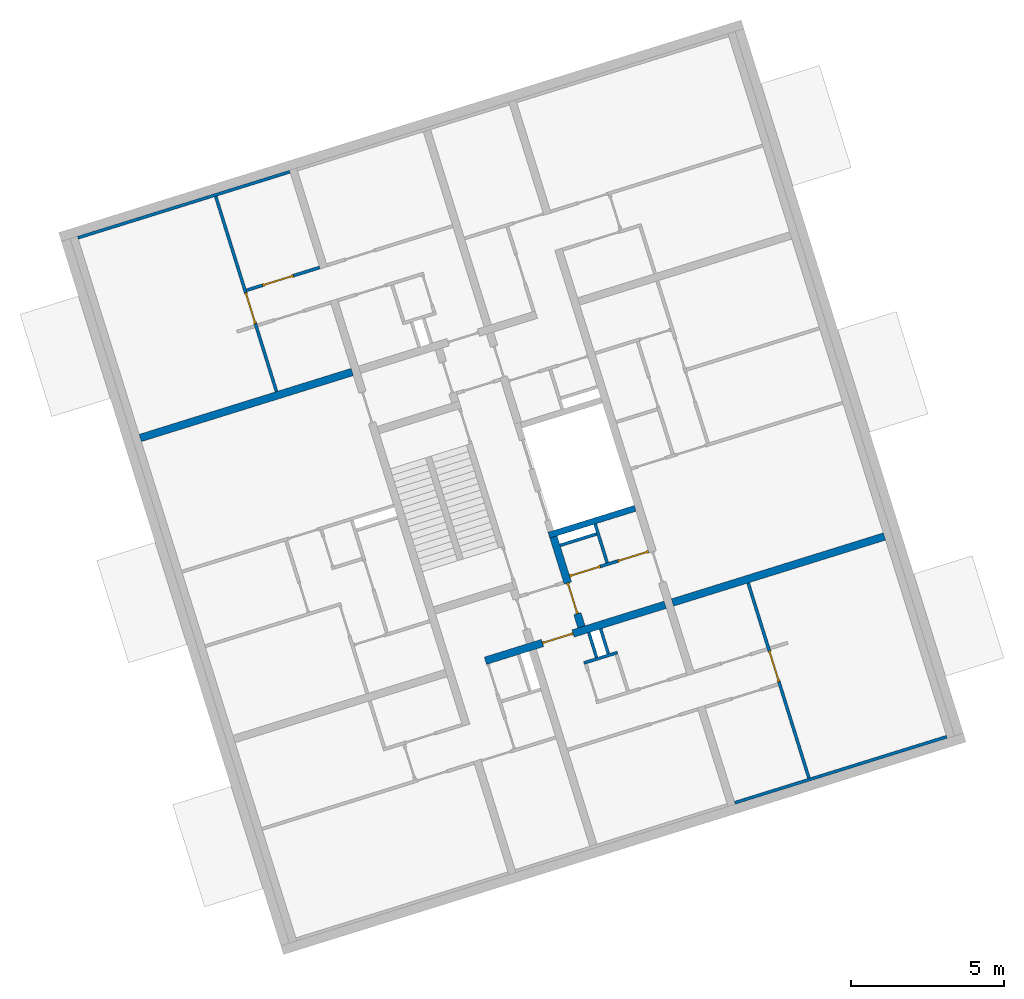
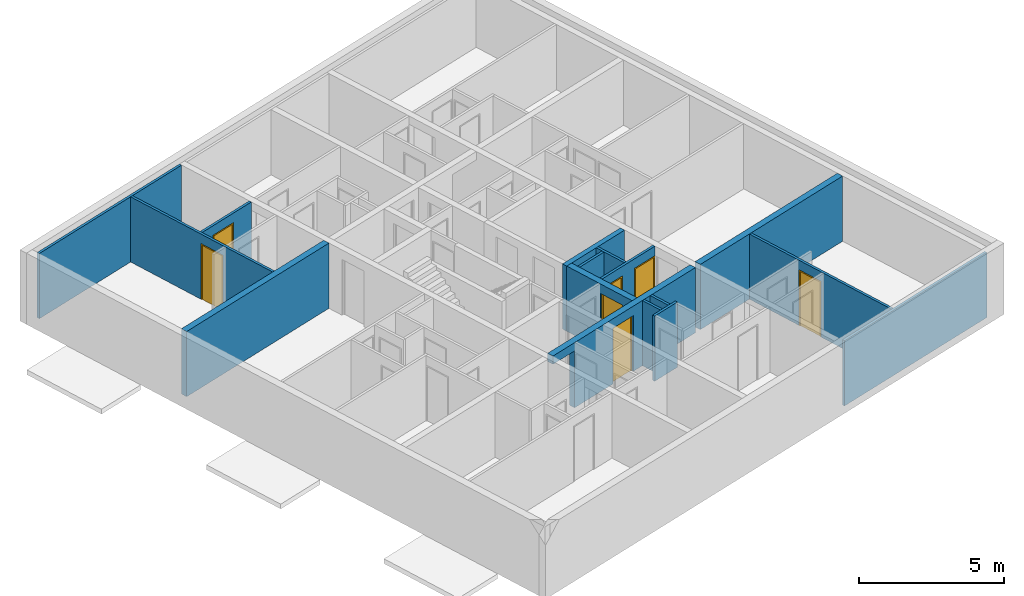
# One storey, part 4 of 9: 16 walls, 7 doors, 8 openings.
"""IFC4 building model written with IfcOpenShell, lengths in metres."""

from ifc_helpers import new_model, entity, si_unit, converted_unit, direction, frame, origin, place, context, subcontext, project, spatial, indexed_curve, outline, extrude, polygons, source, transform, mapped, material, constituent, constituent_set, type_object, type_shapes, element, fill, save


model = new_model("IFC4")

# Units and contexts
model_context = context("Model", 3, precision=1e-05, world=origin(), true_north=direction((6.12323399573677e-17, 1.0)))
body_context = subcontext(model_context, "Body", "Model", "MODEL_VIEW")
ifc_project = project(units=[si_unit("LENGTHUNIT", "METRE"), si_unit("AREAUNIT", "SQUARE_METRE"), converted_unit("PLANEANGLEUNIT", "DEGREE", entity("IfcPlaneAngleMeasure", 0.0174532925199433), si_unit("PLANEANGLEUNIT", "RADIAN"), dimensions=[0, 0, 0, 0, 0, 0, 0]), si_unit("VOLUMEUNIT", "CUBIC_METRE")], contexts=[model_context])

# Site, building, storey
site_placement = place(None, frame((13.1347999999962, 11.9886000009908, 0.0), z_axis=(0.0, 0.0, 1.0), x_axis=(0.954770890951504, 0.297342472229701, 0.0)))
site = spatial("IfcSite", under=ifc_project, at=site_placement, Name="Schiehaven", CompositionType="ELEMENT")
building_placement = place(site_placement, origin())
building = spatial("IfcBuilding", under=site, at=building_placement, Name="VORM huis", CompositionType="ELEMENT")
storey_placement = place(building_placement, frame((0.0, 0.0, 15.9)))
storey = spatial("IfcBuildingStorey", under=building, at=storey_placement, Name="05 vijfde verdieping", CompositionType="ELEMENT", Elevation=15.9)

# Wall, openings, door
ifc_material_1 = material(Name="beton_gewapend_ihw", Category="Miscellaneous")
wall_type_1 = type_object("IfcWallType", Name="Basic Wall:28_WA_skelet_wand 250mm_gen", PredefinedType="STANDARD")
wall_1_placement = place(storey_placement, frame((65.125, 11.8999999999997, 0.0)))
wall_1 = element("IfcWall", 1, at=wall_1_placement, inside=storey, type_object=wall_type_1, material=ifc_material_1, Name="Constructieve wand", ObjectType="Wand", PredefinedType="NOTDEFINED", context=body_context, shape_type="Tessellation", body=[
    polygons([(4.09999999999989, -0.125, 2.34999999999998), (4.09999999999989, -0.125, -2.16573425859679e-15), (7.24999999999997, -0.125, -2.16573425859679e-15), (7.24999999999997, -0.125, 2.75), (-3.43598028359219e-15, -0.125, 2.75), (-3.43598028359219e-15, -0.125, 2.4), (1.10000000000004, -0.125, 2.4), (1.10000000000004, -0.125, -2.16573425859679e-15), (3.04999999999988, -0.125, -2.16573425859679e-15), (3.04999999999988, -0.125, 2.34999999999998), (7.24999999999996, 0.125, -2.16573425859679e-15), (4.09999999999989, 0.125, -2.16573425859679e-15), (4.09999999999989, 0.125, 2.34999999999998), (3.04999999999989, 0.125, 2.34999999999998), (3.04999999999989, 0.125, -2.16573425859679e-15), (1.10000000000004, 0.125, -2.16573425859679e-15), (1.10000000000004, 0.125, 2.4), (-9.33960364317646e-16, 0.125, 2.4), (-9.33960364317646e-16, 0.125, 2.75), (7.24999999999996, 0.125, 2.75)], [[[1, 2, 3, 4, 5, 6, 7, 8, 9, 10]], [[11, 12, 13, 14, 15, 16, 17, 18, 19, 20]], [[9, 8, 16, 15]], [[5, 4, 20, 19]], [[5, 19, 18, 6]], [[15, 14, 10, 9]], [[13, 12, 2, 1]], [[14, 13, 1, 10]], [[17, 7, 6, 18]], [[7, 17, 16, 8]], [[4, 3, 11, 20]], [[3, 2, 12, 11]]], closed=True),
])
opening_1_placement = place(wall_1_placement, origin())
element("IfcOpeningElement", 2, at=opening_1_placement, cuts=wall_1, Name="Constructieve wand", PredefinedType="OPENING", context=body_context, shape_type="SweptSolid", body=[
    extrude(outline(indexed_curve([(-1.2, -0.550000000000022), (1.2, -0.550000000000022), (1.2, 0.550000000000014), (-1.2, 0.550000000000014), (-1.2, -0.550000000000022)], self_intersect=False)), frame((0.55000000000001, -0.125, 1.2), z_axis=(0.0, 1.0, 0.0), x_axis=(0.0, 0.0, -1.0)), (0.0, 0.0, 1.0), 0.249999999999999),
])
opening_2_placement = place(wall_1_placement, frame((3.04999999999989, -0.124999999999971, 0.0)))
opening_2 = element("IfcOpeningElement", 3, at=opening_2_placement, cuts=wall_1, Name="Woningtoegangsdeur", PredefinedType="OPENING", context=body_context, shape_type="SweptSolid", body=[
    extrude(outline(indexed_curve([(2.34999999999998, 1.8457481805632e-29), (2.34999999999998, 1.05), (0.0, 1.05), (0.0, 1.8457481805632e-29), (2.34999999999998, 1.8457481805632e-29)], self_intersect=False)), frame((0.0, 0.0, 0.0), z_axis=(0.0, 1.0, 0.0), x_axis=(0.0, 0.0, 1.0)), (0.0, 0.0, 1.0), 0.25),
])
ifc_material_2 = material(Name="PD_a_binnenwandopeningen", Category="Miscellaneous")
ifc_constituent_1 = constituent(ifc_material_2, Name="PD_a_binnenwandopeningen", Category="Miscellaneous")
ifc_material_3 = material(Name="metaal_aluminium_ntb", Category="Miscellaneous")
ifc_constituent_2 = constituent(ifc_material_3, Name="metaal_aluminium_ntb", Category="Miscellaneous")
ifc_constituent_set_1 = constituent_set(constituents=[ifc_constituent_1, ifc_constituent_2])
ifc_constituent_3 = constituent(ifc_material_2, Name="PD_a_binnenwandopeningen", Category="Miscellaneous")
ifc_constituent_4 = constituent(ifc_material_3, Name="Panel", Category="Miscellaneous")
ifc_constituent_set_2 = constituent_set(constituents=[ifc_constituent_3, ifc_constituent_4])
door_type_1 = type_object("IfcDoorType", Name="32_DO_binnendeur enkel:woningtoegangsdeur", OperationType="REVOLVING", PredefinedType="DOOR", material=ifc_constituent_set_2)
shared_shape_1 = source(origin(), body_context, "Body", "SweptSolid", [
    extrude(outline(indexed_curve([(0.475, -1.16249999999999), (0.525000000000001, -1.16249999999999), (0.525000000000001, 1.18749999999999), (-0.525000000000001, 1.18749999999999), (-0.525000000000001, -1.16249999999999), (-0.475, -1.16249999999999), (-0.475, 1.13749999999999), (0.475, 1.13749999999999), (0.475, -1.16249999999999)], self_intersect=False)), frame((0.525000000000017, 0.174999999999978, 1.16249999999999), z_axis=(0.0, -1.0, 0.0), x_axis=(1.0, 0.0, 0.0)), (0.0, 0.0, 1.0), 0.1),
    extrude(outline(indexed_curve([(-0.475, -0.025), (0.475, -0.025), (0.475, 0.025), (-0.475, 0.025), (-0.475, -0.025)], self_intersect=False)), frame((0.525000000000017, 0.12499999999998, 0.0)), (0.0, 0.0, 1.0), 2.29999999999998),
])
type_shapes(door_type_1, [shared_shape_1])
door_1_placement = place(opening_2_placement, origin())
door_1 = element("IfcDoor", 4, at=door_1_placement, inside=storey, type_object=door_type_1, material=ifc_constituent_set_1, Name="Woningtoegangsdeur", ObjectType="Deur", OperationType="REVOLVING", OverallHeight=2.34999999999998, OverallWidth=1.05, PredefinedType="DOOR", context=body_context, shape_type="MappedRepresentation", body=[
    mapped(shared_shape_1, transform((0.0, 0.0, 0.0), scale=1.0)),
])
fill(opening_2, door_1)

# Walls
ifc_material_4 = material(Name="ntb_ntb_ntb", Category="Miscellaneous")
wall_type_2 = type_object("IfcWallType", Name="Basic Wall:21_WA_gevel_binnenspouwwand 100mm_gen", PredefinedType="STANDARD")
wall_2_placement = place(storey_placement, frame((79.8750000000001, 5.04999999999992, 0.0), z_axis=(0.0, 0.0, 1.0), x_axis=(-1.0, 0.0, 0.0)))
element("IfcWall", 5, at=wall_2_placement, inside=storey, type_object=wall_type_2, material=ifc_material_4, Name="Binnenspouwblad", ObjectType="Wand", PredefinedType="NOTDEFINED", context=body_context, shape_type="SweptSolid", body=[
    extrude(outline(indexed_curve([(7.24999999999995, 0.0499999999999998), (5.48749790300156e-18, 0.0499999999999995), (-5.48749790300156e-18, -0.0499999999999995), (7.24999999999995, -0.0499999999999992), (7.24999999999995, 0.0499999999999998)], self_intersect=False)), origin(), (0.0, 0.0, 1.0), 2.75),
])
wall_3_placement = place(storey_placement, frame((64.8750000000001, 29.0499999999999, 0.0), z_axis=(0.0, 0.0, 1.0), x_axis=(-1.0, 0.0, 0.0)))
element("IfcWall", 6, at=wall_3_placement, inside=storey, type_object=wall_type_2, material=ifc_material_4, Name="Binnenspouwblad", ObjectType="Wand", PredefinedType="NOTDEFINED", context=body_context, shape_type="SweptSolid", body=[
    extrude(outline(indexed_curve([(7.24999999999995, 0.0499999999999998), (-1.70916305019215e-17, 0.0500000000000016), (1.70916305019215e-17, -0.0500000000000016), (7.24999999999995, -0.0500000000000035), (7.24999999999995, 0.0499999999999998)], self_intersect=False)), origin(), (0.0, 0.0, 1.0), 2.75),
])
ifc_material_5 = material(Name="beton_gewapend_prefab-element", Category="Miscellaneous")
wall_type_3 = type_object("IfcWallType", Name="Basic Wall:28_WA_skelet_wand 200mm_gen", PredefinedType="STANDARD")
wall_4_placement = place(storey_placement, frame((72.3750000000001, 15.1999999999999, 0.0), z_axis=(0.0, 0.0, 1.0), x_axis=(-1.0, 0.0, 0.0)))
element("IfcWall", 7, at=wall_4_placement, inside=storey, type_object=wall_type_3, material=ifc_material_5, Name="Constructieve wand", ObjectType="Wand", PredefinedType="NOTDEFINED", context=body_context, shape_type="SweptSolid", body=[
    extrude(outline(indexed_curve([(2.9500000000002, 0.100000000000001), (-7.31549408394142e-18, 0.100000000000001), (7.31549408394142e-18, -0.100000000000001), (2.9500000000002, -0.100000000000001), (2.9500000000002, 0.100000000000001)], self_intersect=False)), origin(), (0.0, 0.0, 1.0), 2.75),
])
wall_type_4 = type_object("IfcWallType", Name="Basic Wall:22_WA_afbouw_binnenwand 250mm_gen", PredefinedType="STANDARD")
wall_5_placement = place(storey_placement, frame((64.8749999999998, 22.1999999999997, 0.0), z_axis=(0.0, 0.0, 1.0), x_axis=(-1.0, 0.0, 0.0)))
element("IfcWall", 8, at=wall_5_placement, inside=storey, type_object=wall_type_4, material=ifc_material_4, Name="Binnenwand", ObjectType="Wand", PredefinedType="NOTDEFINED", context=body_context, shape_type="SweptSolid", body=[
    extrude(outline(indexed_curve([(7.24999999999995, 0.125000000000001), (1.36042581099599e-15, 0.125000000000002), (-1.36042581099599e-15, -0.125000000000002), (7.24999999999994, -0.125000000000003), (7.24999999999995, 0.125000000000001)], self_intersect=False)), origin(), (0.0, 0.0, 1.0), 2.75),
])
wall_6_placement = place(storey_placement, frame((72.6249999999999, 11.8999999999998, 0.0)))
element("IfcWall", 9, at=wall_6_placement, inside=storey, type_object=wall_type_4, material=ifc_material_4, Name="Binnenwand", ObjectType="Wand", PredefinedType="NOTDEFINED", context=body_context, shape_type="SweptSolid", body=[
    extrude(outline(indexed_curve([(7.24999999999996, 0.124999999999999), (1.36514404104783e-15, 0.125), (-1.36514404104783e-15, -0.125), (7.24999999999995, -0.125000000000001), (7.24999999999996, 0.124999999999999)], self_intersect=False)), origin(), (0.0, 0.0, 1.0), 2.75),
])

# Wall, opening, door
wall_7_placement = place(storey_placement, frame((69.5499999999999, 15.0999999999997, 0.0), z_axis=(0.0, 0.0, 1.0), x_axis=(0.0, -1.0, 0.0)))
wall_7 = element("IfcWall", 10, at=wall_7_placement, inside=storey, type_object=wall_type_4, material=ifc_material_4, Name="Binnenwand", ObjectType="Wand", PredefinedType="NOTDEFINED", context=body_context, shape_type="Tessellation", body=[
    polygons([(2.62500000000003, -0.125000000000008, 2.34999999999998), (2.62500000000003, -0.125000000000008, -2.16573425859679e-15), (3.07499999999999, -0.125000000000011, -2.16573425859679e-15), (3.07499999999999, -0.125000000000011, 2.75), (1.575, -0.125000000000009, 2.75), (1.475, -0.125000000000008, 2.75), (0.0, -0.125000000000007, 2.75), (0.0, -0.125000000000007, -2.16573425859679e-15), (1.475, -0.125000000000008, -2.16573425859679e-15), (1.57500000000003, -0.125000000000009, -2.16573425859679e-15), (1.57500000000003, -0.125000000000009, 2.34999999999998), (3.07499999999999, 0.124999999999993, -2.16573425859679e-15), (2.62500000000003, 0.124999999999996, -2.16573425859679e-15), (2.62500000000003, 0.124999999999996, 2.34999999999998), (1.57500000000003, 0.124999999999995, 2.34999999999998), (1.57500000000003, 0.124999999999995, -2.16573425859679e-15), (-2.16573425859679e-15, 0.125000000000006, -2.16573425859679e-15), (-2.16573425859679e-15, 0.125000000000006, 2.75), (3.07499999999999, 0.124999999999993, 2.75)], [[[1, 2, 3, 4, 5, 6, 7, 8, 9, 10, 11]], [[12, 13, 14, 15, 16, 17, 18, 19]], [[10, 9, 8, 17, 16]], [[4, 3, 12, 19]], [[7, 6, 5, 4, 19, 18]], [[8, 7, 18, 17]], [[16, 15, 11, 10]], [[14, 13, 2, 1]], [[15, 14, 1, 11]], [[3, 2, 13, 12]]], closed=True),
])
opening_3_placement = place(wall_7_placement, frame((2.62500000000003, 0.125000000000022, 0.0)))
opening_3 = element("IfcOpeningElement", 11, at=opening_3_placement, cuts=wall_7, Name="Woningtoegangsdeur", PredefinedType="OPENING", context=body_context, shape_type="SweptSolid", body=[
    extrude(outline(indexed_curve([(2.34999999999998, 1.05), (0.0, 1.05), (0.0, 1.08286712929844e-15), (2.34999999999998, 1.08286712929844e-15), (2.34999999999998, 1.05)], self_intersect=False)), frame((0.0, 0.0, 0.0), z_axis=(0.0, -1.0, 0.0), x_axis=(0.0, 0.0, 1.0)), (0.0, 0.0, 1.0), 0.25),
])
ifc_constituent_5 = constituent(ifc_material_2, Name="PD_a_binnenwandopeningen", Category="Miscellaneous")
ifc_constituent_6 = constituent(ifc_material_3, Name="metaal_aluminium_ntb", Category="Miscellaneous")
ifc_constituent_set_3 = constituent_set(constituents=[ifc_constituent_5, ifc_constituent_6])
ifc_constituent_7 = constituent(ifc_material_2, Name="PD_a_binnenwandopeningen", Category="Miscellaneous")
ifc_constituent_8 = constituent(ifc_material_3, Name="Panel", Category="Miscellaneous")
ifc_constituent_set_4 = constituent_set(constituents=[ifc_constituent_7, ifc_constituent_8])
door_type_2 = type_object("IfcDoorType", Name="32_DO_binnendeur enkel:woningtoegangsdeur", OperationType="REVOLVING", PredefinedType="DOOR", material=ifc_constituent_set_4)
shared_shape_2 = source(origin(), body_context, "Body", "SweptSolid", [
    extrude(outline(indexed_curve([(-1.16249999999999, -0.525000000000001), (1.18749999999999, -0.525), (1.18749999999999, 0.525000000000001), (-1.16249999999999, 0.525000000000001), (-1.16249999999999, 0.475), (1.13749999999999, 0.475), (1.13749999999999, -0.475), (-1.16249999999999, -0.475), (-1.16249999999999, -0.525000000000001)], self_intersect=False)), frame((0.525000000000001, 0.0749999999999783, 1.16249999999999), z_axis=(0.0, 1.0, 0.0), x_axis=(0.0, 0.0, 1.0)), (0.0, 0.0, 1.0), 0.1),
    extrude(outline(indexed_curve([(-0.025, -0.475), (0.025, -0.475), (0.025, 0.475), (-0.025, 0.475), (-0.025, -0.475)], self_intersect=False)), frame((0.525000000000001, 0.12499999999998, 0.0), z_axis=(0.0, 0.0, 1.0), x_axis=(0.0, 1.0, 0.0)), (0.0, 0.0, 1.0), 2.29999999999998),
])
type_shapes(door_type_2, [shared_shape_2])
door_2_placement = place(opening_3_placement, frame((0.0, 0.0, 0.0), z_axis=(0.0, 0.0, 1.0), x_axis=(-1.0, 0.0, 0.0)))
door_2 = element("IfcDoor", 12, at=door_2_placement, inside=storey, type_object=door_type_2, material=ifc_constituent_set_3, Name="Woningtoegangsdeur", ObjectType="Deur", OperationType="REVOLVING", OverallHeight=2.34999999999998, OverallWidth=1.05, PredefinedType="DOOR", context=body_context, shape_type="MappedRepresentation", body=[
    mapped(shared_shape_2, transform((0.0, 0.0, 0.0), scale=1.0)),
])
fill(opening_3, door_2)

# Walls
wall_type_5 = type_object("IfcWallType", Name="Basic Wall:22_WA_afbouw_binnenwand 100mm_gen", PredefinedType="STANDARD")
wall_8_placement = place(storey_placement, frame((70.4249999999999, 10.8749999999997, 0.0), z_axis=(0.0, 0.0, 1.0), x_axis=(-1.0, 0.0, 0.0)))
element("IfcWall", 13, at=wall_8_placement, inside=storey, type_object=wall_type_5, material=ifc_material_4, Name="Binnenwand", ObjectType="Wand", PredefinedType="NOTDEFINED", context=body_context, shape_type="SweptSolid", body=[
    extrude(outline(indexed_curve([(1.15, 0.049999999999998), (6.26749477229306e-16, 0.0499999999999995), (-6.26749477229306e-16, -0.0499999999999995), (1.15, -0.0500000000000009), (1.15, 0.049999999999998)], self_intersect=False)), origin(), (0.0, 0.0, 1.0), 2.75),
])
wall_9_placement = place(storey_placement, frame((69.7249999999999, 11.7749999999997, 0.0), z_axis=(0.0, 0.0, 1.0), x_axis=(0.0, -1.0, 0.0)))
element("IfcWall", 14, at=wall_9_placement, inside=storey, type_object=wall_type_5, material=ifc_material_4, Name="Binnenwand", ObjectType="Wand", PredefinedType="NOTDEFINED", context=body_context, shape_type="SweptSolid", body=[
    extrude(outline(indexed_curve([(0.850000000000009, 0.0499999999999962), (5.75634952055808e-16, 0.0499999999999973), (-5.75634952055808e-16, -0.0499999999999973), (0.850000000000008, -0.0499999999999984), (0.850000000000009, 0.0499999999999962)], self_intersect=False)), origin(), (0.0, 0.0, 1.0), 2.75),
])

# Wall, opening, door
wall_10_placement = place(storey_placement, frame((75.175, 11.7749999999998, 0.0), z_axis=(0.0, 0.0, 1.0), x_axis=(0.0, -1.0, 0.0)))
wall_10 = element("IfcWall", 15, at=wall_10_placement, inside=storey, type_object=wall_type_5, material=ifc_material_4, Name="Binnenwand", ObjectType="Wand", PredefinedType="NOTDEFINED", context=body_context, shape_type="Tessellation", body=[
    polygons([(0.0, -0.050000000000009, 0.0), (2.19999999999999, -0.0500000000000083, 0.0), (2.29999999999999, -0.0500000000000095, 0.0), (2.325, -0.0500000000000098, 0.0), (2.325, -0.0500000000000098, 2.34999999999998), (3.375, -0.0500000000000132, 2.34999999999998), (3.375, -0.0500000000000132, 0.0), (3.39999999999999, -0.0500000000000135, 0.0), (3.49999999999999, -0.050000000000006, 0.0), (6.67499999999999, -0.0500000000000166, 0.0), (6.67499999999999, -0.0500000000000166, 2.75), (3.49999999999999, -0.050000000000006, 2.75), (3.39999999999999, -0.0500000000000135, 2.75), (2.29999999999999, -0.0500000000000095, 2.75), (2.19999999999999, -0.0500000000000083, 2.75), (0.0, -0.050000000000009, 2.75), (2.325, 0.0499999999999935, 2.34999999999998), (2.325, 0.0499999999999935, 0.0), (2.29999999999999, 0.0499999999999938, 0.0), (2.19999999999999, 0.0499999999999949, 0.0), (0.0, 0.0499999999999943, 0.0), (0.0, 0.0499999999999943, 2.75), (2.19999999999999, 0.0499999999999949, 2.75), (2.29999999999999, 0.0499999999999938, 2.75), (6.67499999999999, 0.0499999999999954, 2.75), (6.67499999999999, 0.0499999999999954, 0.0), (3.375, 0.04999999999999, 0.0), (3.375, 0.04999999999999, 2.34999999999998)], [[[1, 2, 3, 4, 5, 6, 7, 8, 9, 10, 11, 12, 13, 14, 15, 16]], [[17, 18, 19, 20, 21, 22, 23, 24, 25, 26, 27, 28]], [[21, 20, 19, 18, 4, 3, 2, 1]], [[11, 10, 26, 25]], [[16, 15, 14, 13, 12, 11, 25, 24, 23, 22]], [[1, 16, 22, 21]], [[7, 6, 28, 27]], [[5, 4, 18, 17]], [[6, 5, 17, 28]], [[27, 26, 10, 9, 8, 7]]], closed=True),
])
opening_4_placement = place(wall_10_placement, frame((3.375, 0.0500000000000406, 0.0)))
opening_4 = element("IfcOpeningElement", 16, at=opening_4_placement, cuts=wall_10, Name="Binnendeur", PredefinedType="OPENING", context=body_context, shape_type="SweptSolid", body=[
    extrude(outline(indexed_curve([(2.34999999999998, 0.0), (2.34999999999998, 1.05), (0.0, 1.05), (0.0, 0.0), (2.34999999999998, 0.0)], self_intersect=False)), frame((0.0, 0.0, 0.0), z_axis=(0.0, -1.0, 0.0), x_axis=(0.0, 0.0, 1.0)), (0.0, 0.0, 1.0), 0.1),
])
ifc_constituent_9 = constituent(ifc_material_2, Name="PD_a_binnenwandopeningen", Category="Miscellaneous")
ifc_constituent_10 = constituent(ifc_material_3, Name="metaal_aluminium_ntb", Category="Miscellaneous")
ifc_constituent_set_5 = constituent_set(constituents=[ifc_constituent_9, ifc_constituent_10])
ifc_constituent_11 = constituent(ifc_material_2, Name="PD_a_binnenwandopeningen", Category="Miscellaneous")
ifc_constituent_12 = constituent(ifc_material_3, Name="Panel", Category="Miscellaneous")
ifc_constituent_set_6 = constituent_set(constituents=[ifc_constituent_11, ifc_constituent_12])
door_type_3 = type_object("IfcDoorType", Name="32_DO_binnendeur enkel:binnendeur", OperationType="REVOLVING", PredefinedType="DOOR", material=ifc_constituent_set_6)
shared_shape_3 = source(origin(), body_context, "Body", "SweptSolid", [
    extrude(outline(indexed_curve([(0.475, -1.16249999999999), (0.525, -1.16249999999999), (0.525, 1.18749999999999), (-0.525, 1.18749999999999), (-0.525, -1.16249999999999), (-0.475, -1.16249999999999), (-0.475, 1.13749999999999), (0.475, 1.13749999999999), (0.475, -1.16249999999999)], self_intersect=False)), frame((0.525000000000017, 0.100000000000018, 1.16249999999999), z_axis=(0.0, -1.0, 0.0), x_axis=(1.0, 0.0, 0.0)), (0.0, 0.0, 1.0), 0.1),
    extrude(outline(indexed_curve([(-0.475, -0.025), (0.475, -0.025), (0.475, 0.025), (-0.475, 0.025), (-0.475, -0.025)], self_intersect=False)), frame((0.525000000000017, 0.0499999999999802, 0.0)), (0.0, 0.0, 1.0), 2.29999999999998),
])
type_shapes(door_type_3, [shared_shape_3])
door_3_placement = place(opening_4_placement, frame((0.0, 0.0, 0.0), z_axis=(0.0, 0.0, 1.0), x_axis=(-1.0, 0.0, 0.0)))
door_3 = element("IfcDoor", 17, at=door_3_placement, inside=storey, type_object=door_type_3, material=ifc_constituent_set_5, Name="Binnendeur", ObjectType="Deur", OperationType="REVOLVING", OverallHeight=2.34999999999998, OverallWidth=1.05, PredefinedType="DOOR", context=body_context, shape_type="MappedRepresentation", body=[
    mapped(shared_shape_3, transform((0.0, 0.0, 0.0), scale=1.0)),
])
fill(opening_4, door_3)

# Wall
wall_11_placement = place(storey_placement, frame((70.1249999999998, 11.7749999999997, 0.0), z_axis=(0.0, 0.0, 1.0), x_axis=(0.0, -1.0, 0.0)))
element("IfcWall", 18, at=wall_11_placement, inside=storey, type_object=wall_type_5, material=ifc_material_4, Name="Binnenwand", ObjectType="Wand", PredefinedType="NOTDEFINED", context=body_context, shape_type="SweptSolid", body=[
    extrude(outline(indexed_curve([(0.850000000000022, 0.0499999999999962), (5.75634952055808e-16, 0.0499999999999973), (-5.75634952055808e-16, -0.0499999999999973), (0.850000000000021, -0.0499999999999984), (0.850000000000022, 0.0499999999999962)], self_intersect=False)), origin(), (0.0, 0.0, 1.0), 2.75),
])

# Wall, opening, door
wall_12_placement = place(storey_placement, frame((64.8749999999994, 25.7750000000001, 0.0), z_axis=(0.0, 0.0, 1.0), x_axis=(-1.0, 0.0, 0.0)))
wall_12 = element("IfcWall", 19, at=wall_12_placement, inside=storey, type_object=wall_type_5, material=ifc_material_4, Name="Binnenwand", ObjectType="Wand", PredefinedType="NOTDEFINED", context=body_context, shape_type="Tessellation", body=[
    polygons([(-6.39486579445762e-16, -0.0499999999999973, 0.0), (0.899999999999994, -0.0499999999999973, 0.0), (0.899999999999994, -0.0499999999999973, 2.34999999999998), (1.95, -0.049999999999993, 2.34999999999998), (1.95, -0.049999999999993, 0.0), (2.5, -0.049999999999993, 0.0), (2.5, -0.049999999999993, 2.75), (-6.39486579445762e-16, -0.0499999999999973, 2.75), (0.899999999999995, 0.0500000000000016, 2.34999999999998), (0.899999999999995, 0.0500000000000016, 0.0), (8.72504332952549e-16, 0.0500000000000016, 0.0), (8.72504332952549e-16, 0.0500000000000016, 2.75), (2.5, 0.050000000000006, 2.75), (2.5, 0.050000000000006, 0.0), (1.95, 0.050000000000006, 0.0), (1.95, 0.050000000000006, 2.34999999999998)], [[[1, 2, 3, 4, 5, 6, 7, 8]], [[9, 10, 11, 12, 13, 14, 15, 16]], [[11, 10, 2, 1]], [[8, 7, 13, 12]], [[1, 8, 12, 11]], [[5, 4, 16, 15]], [[3, 2, 10, 9]], [[4, 3, 9, 16]], [[7, 6, 14, 13]], [[15, 14, 6, 5]]], closed=True),
])
opening_5_placement = place(wall_12_placement, frame((0.899999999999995, -0.049999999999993, 0.0)))
opening_5 = element("IfcOpeningElement", 20, at=opening_5_placement, cuts=wall_12, Name="Binnendeur", PredefinedType="OPENING", context=body_context, shape_type="SweptSolid", body=[
    extrude(outline(indexed_curve([(2.34999999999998, 1.05), (0.0, 1.05), (0.0, 0.0), (2.34999999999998, 0.0), (2.34999999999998, 1.05)], self_intersect=False)), frame((0.0, 0.0, 0.0), z_axis=(0.0, 1.0, 0.0), x_axis=(0.0, 0.0, 1.0)), (0.0, 0.0, 1.0), 0.1),
])
ifc_constituent_13 = constituent(ifc_material_2, Name="PD_a_binnenwandopeningen", Category="Miscellaneous")
ifc_constituent_14 = constituent(ifc_material_3, Name="metaal_aluminium_ntb", Category="Miscellaneous")
ifc_constituent_set_7 = constituent_set(constituents=[ifc_constituent_13, ifc_constituent_14])
ifc_constituent_15 = constituent(ifc_material_2, Name="PD_a_binnenwandopeningen", Category="Miscellaneous")
ifc_constituent_16 = constituent(ifc_material_3, Name="Panel", Category="Miscellaneous")
ifc_constituent_set_8 = constituent_set(constituents=[ifc_constituent_15, ifc_constituent_16])
door_type_4 = type_object("IfcDoorType", Name="32_DO_binnendeur enkel:binnendeur", OperationType="REVOLVING", PredefinedType="DOOR", material=ifc_constituent_set_8)
shared_shape_4 = source(origin(), body_context, "Body", "SweptSolid", [
    extrude(outline(indexed_curve([(-1.16249999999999, -0.525000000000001), (1.18749999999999, -0.525), (1.18749999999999, 0.525), (-1.16249999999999, 0.525), (-1.16249999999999, 0.475), (1.13749999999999, 0.475), (1.13749999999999, -0.475), (-1.16249999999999, -0.475), (-1.16249999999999, -0.525000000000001)], self_intersect=False)), frame((0.525000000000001, 0.0, 1.16249999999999), z_axis=(0.0, 1.0, 0.0), x_axis=(0.0, 0.0, 1.0)), (0.0, 0.0, 1.0), 0.1),
    extrude(outline(indexed_curve([(-0.025, -0.475), (0.025, -0.475), (0.025, 0.475), (-0.025, 0.475), (-0.025, -0.475)], self_intersect=False)), frame((0.525000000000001, 0.0499999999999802, 0.0), z_axis=(0.0, 0.0, 1.0), x_axis=(0.0, 1.0, 0.0)), (0.0, 0.0, 1.0), 2.29999999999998),
])
type_shapes(door_type_4, [shared_shape_4])
door_4_placement = place(opening_5_placement, origin())
door_4 = element("IfcDoor", 21, at=door_4_placement, inside=storey, type_object=door_type_4, material=ifc_constituent_set_7, Name="Binnendeur", ObjectType="Deur", OperationType="REVOLVING", OverallHeight=2.34999999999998, OverallWidth=1.05, PredefinedType="DOOR", context=body_context, shape_type="MappedRepresentation", body=[
    mapped(shared_shape_4, transform((0.0, 0.0, 0.0), scale=1.0)),
])
fill(opening_5, door_4)

wall_13_placement = place(storey_placement, frame((62.3249999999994, 22.3250000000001, 0.0), z_axis=(0.0, 0.0, 1.0), x_axis=(0.0, 1.0, 0.0)))
wall_13 = element("IfcWall", 22, at=wall_13_placement, inside=storey, type_object=wall_type_5, material=ifc_material_4, Name="Binnenwand", ObjectType="Wand", PredefinedType="NOTDEFINED", context=body_context, shape_type="Tessellation", body=[
    polygons([(0.0, -0.0500000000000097, 0.0), (2.19999999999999, -0.0500000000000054, 0.0), (2.29999999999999, -0.0500000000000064, 0.0), (2.325, -0.0500000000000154, 0.0), (2.325, -0.0500000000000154, 2.34999999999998), (3.37500000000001, -0.0500000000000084, 2.34999999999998), (3.37500000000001, -0.0500000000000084, 0.0), (3.39999999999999, -0.0500000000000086, 0.0), (3.49999999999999, -0.0500000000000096, 0.0), (6.67499999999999, -0.0500000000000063, 0.0), (6.67499999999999, -0.0500000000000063, 2.75), (3.49999999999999, -0.0500000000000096, 2.75), (3.39999999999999, -0.0500000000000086, 2.75), (2.29999999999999, -0.0500000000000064, 2.75), (2.19999999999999, -0.0500000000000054, 2.75), (0.0, -0.0500000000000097, 2.75), (2.325, 0.0499999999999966, 2.34999999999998), (2.325, 0.0499999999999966, 0.0), (2.29999999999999, 0.0499999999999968, 0.0), (2.19999999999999, 0.0499999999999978, 0.0), (0.0, 0.0499999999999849, 0.0), (0.0, 0.0499999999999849, 2.75), (2.19999999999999, 0.0499999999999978, 2.75), (2.29999999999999, 0.0499999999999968, 2.75), (6.67499999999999, 0.0499999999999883, 2.75), (6.67499999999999, 0.0499999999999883, 0.0), (3.37500000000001, 0.0500000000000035, 0.0), (3.37500000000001, 0.0500000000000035, 2.34999999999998)], [[[1, 2, 3, 4, 5, 6, 7, 8, 9, 10, 11, 12, 13, 14, 15, 16]], [[17, 18, 19, 20, 21, 22, 23, 24, 25, 26, 27, 28]], [[21, 20, 19, 18, 4, 3, 2, 1]], [[11, 10, 26, 25]], [[16, 15, 14, 13, 12, 11, 25, 24, 23, 22]], [[1, 16, 22, 21]], [[7, 6, 28, 27]], [[5, 4, 18, 17]], [[6, 5, 17, 28]], [[27, 26, 10, 9, 8, 7]]], closed=True),
])
opening_6_placement = place(wall_13_placement, frame((3.37500000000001, 0.0500000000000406, 0.0)))
opening_6 = element("IfcOpeningElement", 23, at=opening_6_placement, cuts=wall_13, Name="Binnendeur", PredefinedType="OPENING", context=body_context, shape_type="SweptSolid", body=[
    extrude(outline(indexed_curve([(2.34999999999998, 0.0), (2.34999999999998, 1.05), (0.0, 1.05), (0.0, 0.0), (2.34999999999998, 0.0)], self_intersect=False)), frame((0.0, 0.0, 0.0), z_axis=(0.0, -1.0, 0.0), x_axis=(0.0, 0.0, 1.0)), (0.0, 0.0, 1.0), 0.1),
])
ifc_constituent_17 = constituent(ifc_material_2, Name="PD_a_binnenwandopeningen", Category="Miscellaneous")
ifc_constituent_18 = constituent(ifc_material_3, Name="metaal_aluminium_ntb", Category="Miscellaneous")
ifc_constituent_set_9 = constituent_set(constituents=[ifc_constituent_17, ifc_constituent_18])
door_5_placement = place(opening_6_placement, frame((0.0, 0.0, 0.0), z_axis=(0.0, 0.0, 1.0), x_axis=(-1.0, 0.0, 0.0)))
door_5 = element("IfcDoor", 24, at=door_5_placement, inside=storey, type_object=door_type_3, material=ifc_constituent_set_9, Name="Binnendeur", ObjectType="Deur", OperationType="REVOLVING", OverallHeight=2.34999999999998, OverallWidth=1.05, PredefinedType="DOOR", context=body_context, shape_type="MappedRepresentation", body=[
    mapped(shared_shape_3, transform((0.0, 0.0, 0.0), scale=1.0)),
])
fill(opening_6, door_5)

# Wall, openings, doors
wall_14_placement = place(storey_placement, frame((69.6749999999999, 13.7249999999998, 0.0)))
wall_14 = element("IfcWall", 25, at=wall_14_placement, inside=storey, type_object=wall_type_5, material=ifc_material_4, Name="Binnenwand", ObjectType="Wand", PredefinedType="NOTDEFINED", context=body_context, shape_type="Tessellation", body=[
    polygons([(2.70000000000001, -0.0500000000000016, 2.75), (4.04654553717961e-15, -0.0500000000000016, 2.75), (4.04654553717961e-15, -0.0500000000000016, 2.34999999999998), (1.05, -0.0499999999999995, 2.34999999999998), (1.05000000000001, -0.0499999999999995, 0.0), (1.65, -0.0499999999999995, 0.0), (1.65, -0.0499999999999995, 2.34999999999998), (2.70000000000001, -0.0500000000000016, 2.34999999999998), (4.32953123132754e-15, 0.0499999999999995, 2.75), (1.24999999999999, 0.0499999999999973, 2.75), (1.34999999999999, 0.0499999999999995, 2.75), (2.70000000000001, 0.0499999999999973, 2.75), (2.70000000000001, 0.0499999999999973, 2.34999999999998), (1.65, 0.0500000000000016, 2.34999999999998), (1.65, 0.0500000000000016, 0.0), (1.34999999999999, 0.0499999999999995, 0.0), (1.24999999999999, 0.0499999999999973, 0.0), (1.05, 0.0499999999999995, 0.0), (1.05, 0.0499999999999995, 2.34999999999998), (4.32953123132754e-15, 0.0499999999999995, 2.34999999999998)], [[[1, 2, 3, 4, 5, 6, 7, 8]], [[9, 10, 11, 12, 13, 14, 15, 16, 17, 18, 19, 20]], [[5, 18, 17, 16, 15, 6]], [[12, 1, 8, 13]], [[2, 1, 12, 11, 10, 9]], [[2, 9, 20, 3]], [[4, 19, 18, 5]], [[19, 4, 3, 20]], [[14, 7, 6, 15]], [[7, 14, 13, 8]]], closed=True),
])
opening_7_placement = place(wall_14_placement, frame((1.05, 0.0500000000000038, 0.0)))
opening_7 = element("IfcOpeningElement", 26, at=opening_7_placement, cuts=wall_14, Name="Binnendeur", PredefinedType="OPENING", context=body_context, shape_type="SweptSolid", body=[
    extrude(outline(indexed_curve([(2.34999999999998, 0.0), (2.34999999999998, 1.05), (0.0, 1.05), (0.0, 0.0), (2.34999999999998, 0.0)], self_intersect=False)), frame((0.0, 0.0, 0.0), z_axis=(0.0, -1.0, 0.0), x_axis=(0.0, 0.0, 1.0)), (0.0, 0.0, 1.0), 0.1),
])
opening_8_placement = place(wall_14_placement, frame((2.70000000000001, 0.0500000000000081, 0.0)))
opening_8 = element("IfcOpeningElement", 27, at=opening_8_placement, cuts=wall_14, Name="Binnendeur", PredefinedType="OPENING", context=body_context, shape_type="SweptSolid", body=[
    extrude(outline(indexed_curve([(2.34999999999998, 0.0), (2.34999999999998, 1.05), (0.0, 1.05), (0.0, 0.0), (2.34999999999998, 0.0)], self_intersect=False)), frame((0.0, 0.0, 0.0), z_axis=(0.0, -1.0, 0.0), x_axis=(0.0, 0.0, 1.0)), (0.0, 0.0, 1.0), 0.1),
])
ifc_constituent_19 = constituent(ifc_material_2, Name="PD_a_binnenwandopeningen", Category="Miscellaneous")
ifc_constituent_20 = constituent(ifc_material_3, Name="metaal_aluminium_ntb", Category="Miscellaneous")
ifc_constituent_set_10 = constituent_set(constituents=[ifc_constituent_19, ifc_constituent_20])
door_6_placement = place(opening_7_placement, frame((0.0, 0.0, 0.0), z_axis=(0.0, 0.0, 1.0), x_axis=(-1.0, 0.0, 0.0)))
door_6 = element("IfcDoor", 28, at=door_6_placement, inside=storey, type_object=door_type_3, material=ifc_constituent_set_10, Name="Binnendeur", ObjectType="Deur", OperationType="REVOLVING", OverallHeight=2.34999999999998, OverallWidth=1.05, PredefinedType="DOOR", context=body_context, shape_type="MappedRepresentation", body=[
    mapped(shared_shape_3, transform((0.0, 0.0, 0.0), scale=1.0)),
])
fill(opening_7, door_6)
ifc_constituent_21 = constituent(ifc_material_2, Name="PD_a_binnenwandopeningen", Category="Miscellaneous")
ifc_constituent_22 = constituent(ifc_material_3, Name="metaal_aluminium_ntb", Category="Miscellaneous")
ifc_constituent_set_11 = constituent_set(constituents=[ifc_constituent_21, ifc_constituent_22])
door_7_placement = place(opening_8_placement, frame((0.0, 0.0, 0.0), z_axis=(0.0, 0.0, 1.0), x_axis=(-1.0, 0.0, 0.0)))
door_7 = element("IfcDoor", 29, at=door_7_placement, inside=storey, type_object=door_type_3, material=ifc_constituent_set_11, Name="Binnendeur", ObjectType="Deur", OperationType="REVOLVING", OverallHeight=2.34999999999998, OverallWidth=1.05, PredefinedType="DOOR", context=body_context, shape_type="MappedRepresentation", body=[
    mapped(shared_shape_3, transform((0.0, 0.0, 0.0), scale=1.0)),
])
fill(opening_8, door_7)

# Walls
wall_15_placement = place(storey_placement, frame((69.6749999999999, 14.7749999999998, 0.0)))
element("IfcWall", 30, at=wall_15_placement, inside=storey, type_object=wall_type_5, material=ifc_material_4, Name="Binnenwand", ObjectType="Wand", PredefinedType="NOTDEFINED", context=body_context, shape_type="SweptSolid", body=[
    extrude(outline(indexed_curve([(1.24999999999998, 0.0499999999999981), (1.41492847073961e-16, 0.0499999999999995), (-1.41492847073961e-16, -0.0499999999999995), (1.24999999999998, -0.0500000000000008), (1.24999999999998, 0.0499999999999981)], self_intersect=False)), origin(), (0.0, 0.0, 1.0), 2.75),
])
wall_16_placement = place(storey_placement, frame((70.9749999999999, 13.7749999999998, 0.0), z_axis=(0.0, 0.0, 1.0), x_axis=(0.0, 1.0, 0.0)))
element("IfcWall", 31, at=wall_16_placement, inside=storey, type_object=wall_type_5, material=ifc_material_4, Name="Binnenwand", ObjectType="Wand", PredefinedType="NOTDEFINED", context=body_context, shape_type="SweptSolid", body=[
    extrude(outline(indexed_curve([(1.32500000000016, 0.0499999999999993), (-7.6226469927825e-17, 0.0499999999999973), (7.6226469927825e-17, -0.0499999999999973), (1.32500000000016, -0.0499999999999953), (1.32500000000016, 0.0499999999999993)], self_intersect=False)), origin(), (0.0, 0.0, 1.0), 2.75),
])

save(model, "model.ifc")
